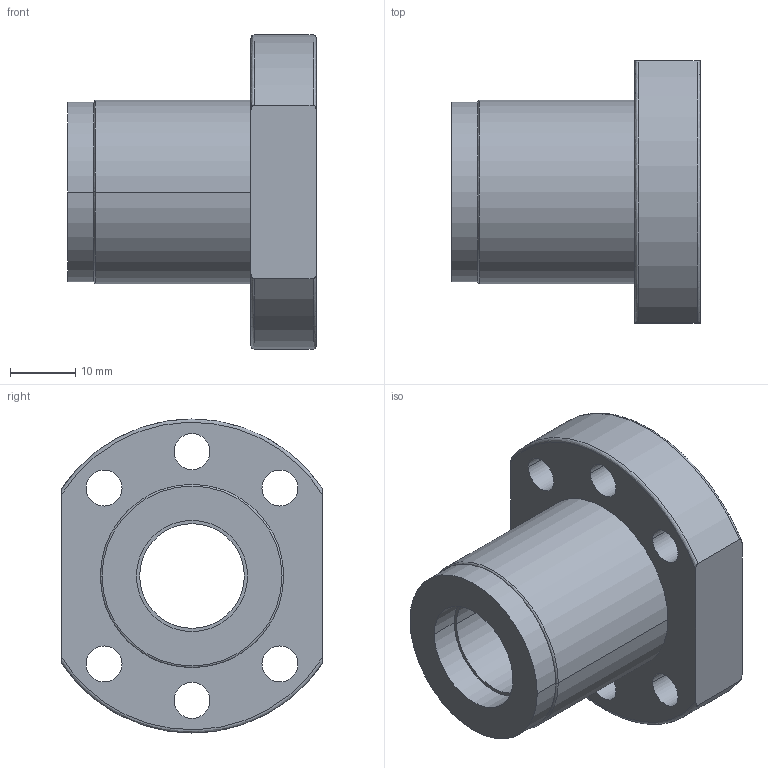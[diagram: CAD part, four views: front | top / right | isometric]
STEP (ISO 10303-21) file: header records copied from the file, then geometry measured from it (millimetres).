
FILE_DESCRIPTION (( 'STEP AP214' ), '1' );
FILE_NAME ('2.3002 Kuularuuvimutteri SFS1605-3,8.STEP', '2024-05-03T10:43:47', ( '' ), ( '' ), 'SwSTEP 2.0', 'SolidWorks 2024', '' );
FILE_SCHEMA (( 'AUTOMOTIVE_DESIGN' ));
Length unit declared in the file: millimetre
Products named in the file (1): 2.3002 Kuularuuvimutteri SFS1605-3,8
Bounding box: 38 x 40 x 48 mm (x, y, z)
Volume: 24200.2 mm3; surface area: 10920.1 mm2
Topology: 2 solids, 2 shells, 46 faces, 110 edges, 72 vertices
Faces by surface type: cylinder 30, plane 10, bspline 6
Entity records: 1863 total; most frequent: CARTESIAN_POINT 648, DIRECTION 242, ORIENTED_EDGE 220, EDGE_CURVE 110, AXIS2_PLACEMENT_3D 103, VERTEX_POINT 72, EDGE_LOOP 66, CIRCLE 62
